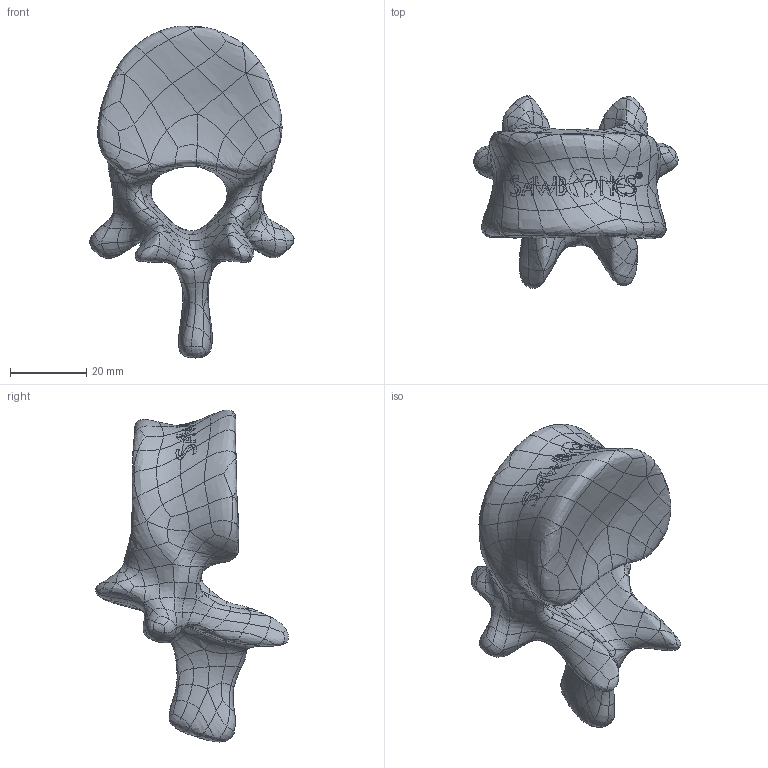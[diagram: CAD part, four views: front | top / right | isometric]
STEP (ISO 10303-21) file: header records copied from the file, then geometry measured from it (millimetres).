
FILE_DESCRIPTION (( 'STEP AP203' ), '1' );
FILE_NAME ('3429-12.STEP', '2025-06-12T15:55:16', ( '' ), ( '' ), 'SwSTEP 2.0', 'SolidWorks 2024', '' );
FILE_SCHEMA (( 'CONFIG_CONTROL_DESIGN' ));
Products named in the file (1): 3429-12
Bounding box: 53.46 x 50.47 x 86.88 mm (x, y, z)
Volume: 48738.4 mm3; surface area: 11467.6 mm2
Topology: 1 solids, 1 shells, 882 faces, 1950 edges, 1071 vertices
Faces by surface type: bspline 882
Entity records: 94734 total; most frequent: CARTESIAN_POINT 82245, ORIENTED_EDGE 3900, B_SPLINE_CURVE_WITH_KNOTS 1950, EDGE_CURVE 1950, VERTEX_POINT 1071, EDGE_LOOP 885, ADVANCED_FACE 882, FACE_OUTER_BOUND 882
